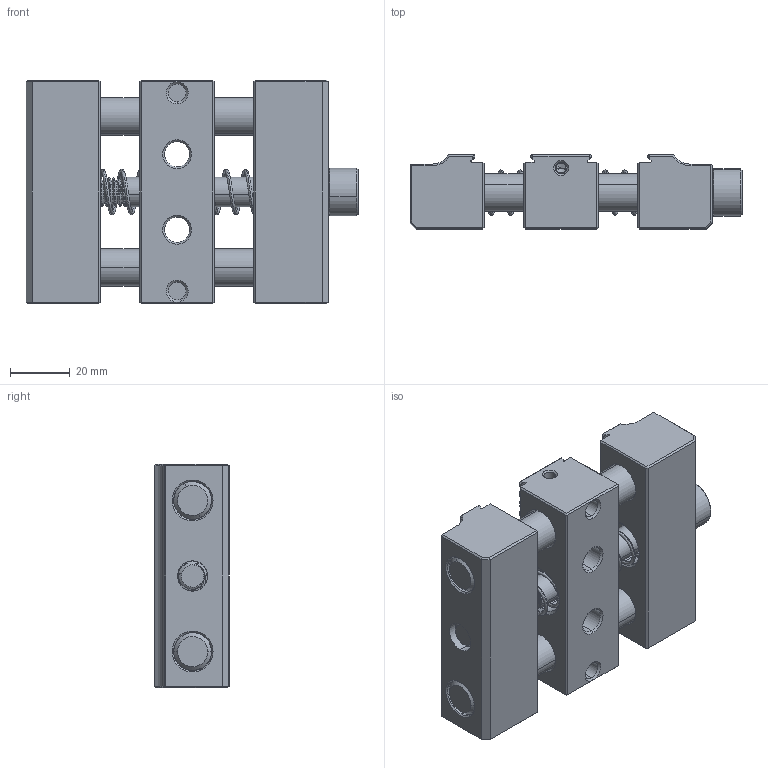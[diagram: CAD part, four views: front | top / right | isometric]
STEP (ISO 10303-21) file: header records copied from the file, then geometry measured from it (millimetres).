
FILE_DESCRIPTION (( 'STEP AP214' ), '1' );
FILE_NAME ('PV3X-4B REV B.STEP', '2021-04-07T20:19:58', ( '' ), ( '' ), 'SwSTEP 2.0', 'SolidWorks 2019', '' );
FILE_SCHEMA (( 'AUTOMOTIVE_DESIGN' ));
Length unit declared in the file: inch
Products named in the file (7): M10X100.SHCS_91290A558; PV3X-3B_FINISHED PART; LC045H10 M_For 4 in; PV3X-4B REV B; PV3X-2B_FINISHED PART; 0500X4000.DP_0500X4000.DP; PV3X-1_FINISHED PART 
Assembly tree (8 placements, depth 2):
  PV3X-4B REV B
    PV3X-1_FINISHED PART 
    PV3X-2B_FINISHED PART
    PV3X-3B_FINISHED PART
    0500X4000.DP_0500X4000.DP  x2
    LC045H10 M_For 4 in  x2
    M10X100.SHCS_91290A558
Bounding box: 111.6 x 24.99 x 75 mm (x, y, z)
Volume: 131317.8 mm3; surface area: 48745.8 mm2
Topology: 8 solids, 8 shells, 590 faces, 1552 edges, 990 vertices
Faces by surface type: plane 265, cylinder 237, cone 78, bspline 10
Entity records: 28817 total; most frequent: CARTESIAN_POINT 15241, ORIENTED_EDGE 3048, DIRECTION 2531, EDGE_CURVE 1524, VERTEX_POINT 976, AXIS2_PLACEMENT_3D 873, VECTOR 785, LINE 785
